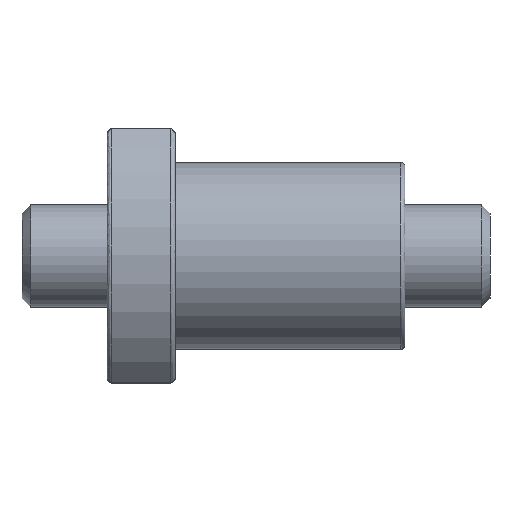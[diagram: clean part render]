
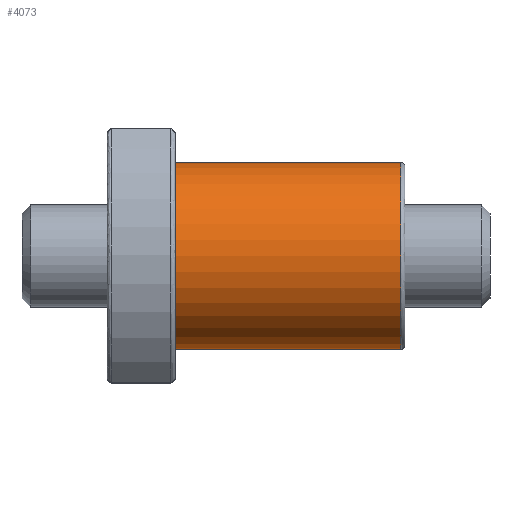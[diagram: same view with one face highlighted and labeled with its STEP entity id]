
A CAD part, front view. The second image highlights one B-rep face of the part: STEP entity #4073.
In plain terms, the highlighted cylindrical face has radius 11 mm (diameter 22 mm), a partial arc.
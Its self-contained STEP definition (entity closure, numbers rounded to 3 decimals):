
#437 = VERTEX_POINT ( 'NONE', #703 ) ;
#478 = DIRECTION ( 'NONE',  ( -1., 0., 0. ) ) ;
#703 = CARTESIAN_POINT ( 'NONE',  ( 44.5, 0., 11. ) ) ;
#844 = CIRCLE ( 'NONE', #1923, 11. ) ;
#971 = DIRECTION ( 'NONE',  ( 0., 0., -1. ) ) ;
#1381 = VECTOR ( 'NONE', #5157, 1000. ) ;
#1413 = DIRECTION ( 'NONE',  ( 1., 0., 0. ) ) ;
#1416 = VERTEX_POINT ( 'NONE', #3732 ) ;
#1438 = EDGE_CURVE ( 'NONE', #3049, #1416, #4316, .T. ) ;
#1555 = ORIENTED_EDGE ( 'NONE', *, *, #4175, .F. ) ;
#1723 = ORIENTED_EDGE ( 'NONE', *, *, #3700, .T. ) ;
#1810 = EDGE_CURVE ( 'NONE', #1416, #4454, #5845, .T. ) ;
#1882 = CARTESIAN_POINT ( 'NONE',  ( -32.28, 0., -11. ) ) ;
#1923 = AXIS2_PLACEMENT_3D ( 'NONE', #5308, #478, #971 ) ;
#3049 = VERTEX_POINT ( 'NONE', #3090 ) ;
#3090 = CARTESIAN_POINT ( 'NONE',  ( 18., 0., 11. ) ) ;
#3119 = CYLINDRICAL_SURFACE ( 'NONE', #3563, 11. ) ;
#3336 = CARTESIAN_POINT ( 'NONE',  ( 18., 0., 0. ) ) ;
#3563 = AXIS2_PLACEMENT_3D ( 'NONE', #5994, #4051, #4007 ) ;
#3700 = EDGE_CURVE ( 'NONE', #4454, #437, #844, .T. ) ;
#3732 = CARTESIAN_POINT ( 'NONE',  ( 18., 0., -11. ) ) ;
#3917 = LINE ( 'NONE', #5667, #1381 ) ;
#3927 = VECTOR ( 'NONE', #1413, 1000. ) ;
#4007 = DIRECTION ( 'NONE',  ( 0., 0., -1. ) ) ;
#4051 = DIRECTION ( 'NONE',  ( 1., 0., 0. ) ) ;
#4073 = ADVANCED_FACE ( 'NONE', ( #5762 ), #3119, .T. ) ;
#4125 = ORIENTED_EDGE ( 'NONE', *, *, #1810, .T. ) ;
#4175 = EDGE_CURVE ( 'NONE', #3049, #437, #3917, .T. ) ;
#4224 = DIRECTION ( 'NONE',  ( 0., 0., -1. ) ) ;
#4316 = CIRCLE ( 'NONE', #4476, 11. ) ;
#4454 = VERTEX_POINT ( 'NONE', #5787 ) ;
#4476 = AXIS2_PLACEMENT_3D ( 'NONE', #3336, #5197, #4224 ) ;
#5157 = DIRECTION ( 'NONE',  ( 1., 0., 0. ) ) ;
#5197 = DIRECTION ( 'NONE',  ( 1., 0., 0. ) ) ;
#5308 = CARTESIAN_POINT ( 'NONE',  ( 44.5, 0., 0. ) ) ;
#5605 = EDGE_LOOP ( 'NONE', ( #1555, #5866, #4125, #1723 ) ) ;
#5667 = CARTESIAN_POINT ( 'NONE',  ( -32.28, 0., 11. ) ) ;
#5762 = FACE_OUTER_BOUND ( 'NONE', #5605, .T. ) ;
#5787 = CARTESIAN_POINT ( 'NONE',  ( 44.5, 0., -11. ) ) ;
#5845 = LINE ( 'NONE', #1882, #3927 ) ;
#5866 = ORIENTED_EDGE ( 'NONE', *, *, #1438, .T. ) ;
#5994 = CARTESIAN_POINT ( 'NONE',  ( -32.28, 0., 0. ) ) ;
